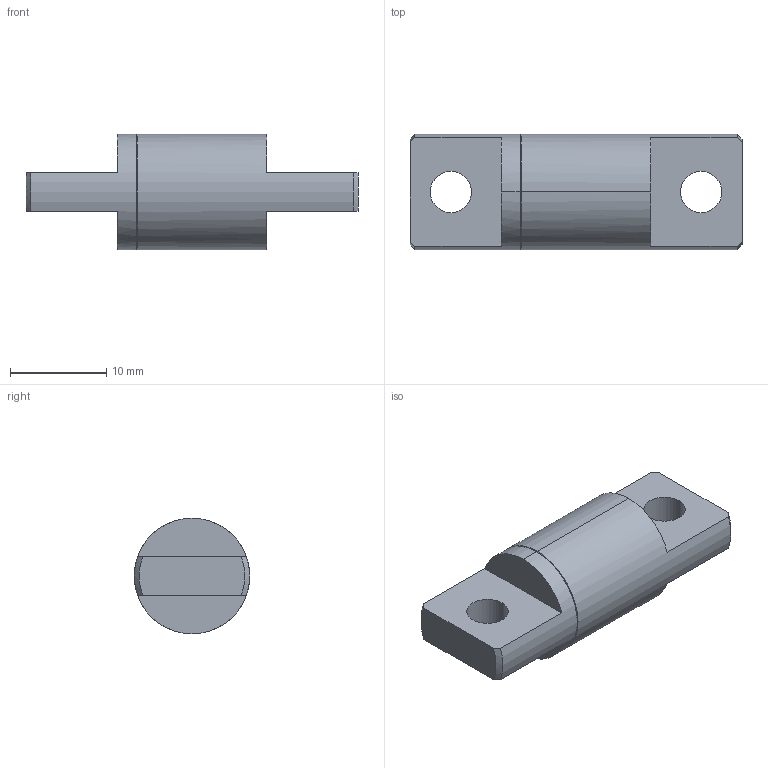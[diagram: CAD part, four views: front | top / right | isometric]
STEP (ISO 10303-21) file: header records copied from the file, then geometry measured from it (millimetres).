
FILE_DESCRIPTION (( 'STEP AP203' ), '1' );
FILE_NAME ('XG11-075-6.STEP', '2025-07-04T05:59:48', ( '微软用户' ), ( '微软中国' ), 'SwSTEP 2.0', 'SolidWorks 2024', '' );
FILE_SCHEMA (( 'CONFIG_CONTROL_DESIGN' ));
Length unit declared in the file: millimetre
Products named in the file (1): XG11-075-6
Bounding box: 34.5 x 12 x 12 mm (x, y, z)
Volume: 2529.5 mm3; surface area: 1441.7 mm2
Topology: 1 solids, 1 shells, 26 faces, 66 edges, 42 vertices
Faces by surface type: plane 10, cylinder 8, torus 4, cone 4
Entity records: 889 total; most frequent: CARTESIAN_POINT 159, DIRECTION 146, ORIENTED_EDGE 132, EDGE_CURVE 66, AXIS2_PLACEMENT_3D 61, VERTEX_POINT 42, CIRCLE 34, EDGE_LOOP 30
